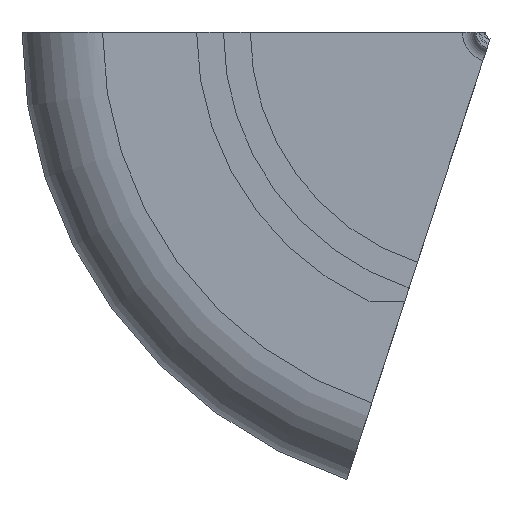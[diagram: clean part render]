
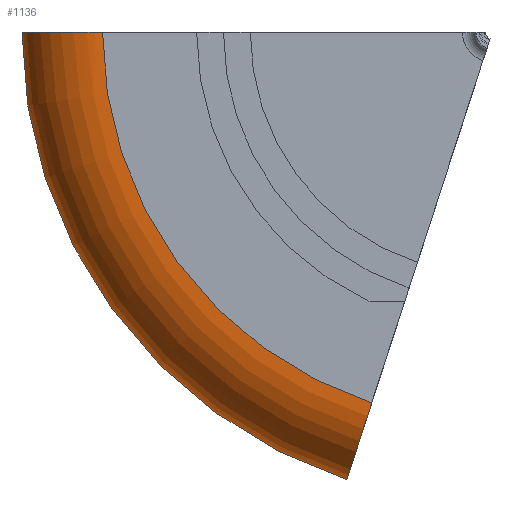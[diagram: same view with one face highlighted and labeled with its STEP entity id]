
A CAD part, left-side view. The second image highlights one B-rep face of the part: STEP entity #1136.
In plain terms, the highlighted toroidal (fillet/blend) face has major radius 145 mm and minor radius 30 mm.
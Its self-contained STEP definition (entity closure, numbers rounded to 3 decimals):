
#13 = EDGE_CURVE ( 'NONE', #2634, #184, #2380, .T. ) ;
#47 = DIRECTION ( 'NONE',  ( 0., 0.951, 0.309 ) ) ;
#69 = CIRCLE ( 'NONE', #996, 30. ) ;
#75 = CARTESIAN_POINT ( 'NONE',  ( -182.589, 0., -164.838 ) ) ;
#113 = CARTESIAN_POINT ( 'NONE',  ( -177.458, 0., -169.402 ) ) ;
#125 = EDGE_CURVE ( 'NONE', #1490, #1398, #1472, .T. ) ;
#171 = DIRECTION ( 'NONE',  ( 1., 0., 0. ) ) ;
#184 = VERTEX_POINT ( 'NONE', #1374 ) ;
#295 = CARTESIAN_POINT ( 'NONE',  ( -169.636, 0., -173.427 ) ) ;
#343 = CARTESIAN_POINT ( 'NONE',  ( -187.75, 0., -156.523 ) ) ;
#452 = FACE_OUTER_BOUND ( 'NONE', #1320, .T. ) ;
#504 = CARTESIAN_POINT ( 'NONE',  ( -160., -137.903, -44.807 ) ) ;
#518 = DIRECTION ( 'NONE',  ( 0., 0., -1. ) ) ;
#537 = CARTESIAN_POINT ( 'NONE',  ( -160., 0., -175. ) ) ;
#549 = B_SPLINE_CURVE_WITH_KNOTS ( 'NONE', 3,
 ( #537, #1845, #2268, #2492, #2238, #295, #2058, #953, #1155, #1403, #113, #2031, #2671, #1168, #1372, #75, #2038, #754, #976, #2470, #2529, #1028, #343, #785, #805, #1674, #1445, #2278, #2286, #1667, #2068 ),
 .UNSPECIFIED., .F., .F.,
 ( 4, 2, 2, 2, 2, 2, 2, 2, 2, 2, 2, 1, 2, 2, 2, 4 ),
 ( 0., 0.006, 0.009, 0.012, 0.018, 0.019, 0.021, 0.023, 0.029, 0.031, 0.032, 0.035, 0.038, 0.04, 0.041, 0.047 ),
 .UNSPECIFIED. ) ;
#645 = CARTESIAN_POINT ( 'NONE',  ( -160., 0., 0. ) ) ;
#754 = CARTESIAN_POINT ( 'NONE',  ( -185.202, 0., -161.282 ) ) ;
#785 = CARTESIAN_POINT ( 'NONE',  ( -188.411, 0., -154.684 ) ) ;
#805 = CARTESIAN_POINT ( 'NONE',  ( -188.84, 0., -153.276 ) ) ;
#921 = DIRECTION ( 'NONE',  ( 0., -0.309, 0.951 ) ) ;
#953 = CARTESIAN_POINT ( 'NONE',  ( -173.296, 0., -171.964 ) ) ;
#976 = CARTESIAN_POINT ( 'NONE',  ( -185.468, 0., -160.863 ) ) ;
#980 = CARTESIAN_POINT ( 'NONE',  ( -190., 0., 0. ) ) ;
#996 = AXIS2_PLACEMENT_3D ( 'NONE', #504, #921, #47 ) ;
#1028 = CARTESIAN_POINT ( 'NONE',  ( -186.913, 0., -158.29 ) ) ;
#1136 = ADVANCED_FACE ( 'NONE', ( #452 ), #2073, .T. ) ;
#1155 = CARTESIAN_POINT ( 'NONE',  ( -175.018, 0., -171.044 ) ) ;
#1168 = CARTESIAN_POINT ( 'NONE',  ( -179.786, 0., -167.572 ) ) ;
#1179 = DIRECTION ( 'NONE',  ( -1., 0., 0. ) ) ;
#1210 = CARTESIAN_POINT ( 'NONE',  ( -190., -137.903, -44.807 ) ) ;
#1255 = ORIENTED_EDGE ( 'NONE', *, *, #13, .F. ) ;
#1279 = CARTESIAN_POINT ( 'NONE',  ( -160., -166.435, -54.078 ) ) ;
#1320 = EDGE_LOOP ( 'NONE', ( #2393, #2418, #1988, #1255 ) ) ;
#1348 = EDGE_CURVE ( 'NONE', #184, #1490, #549, .T. ) ;
#1372 = CARTESIAN_POINT ( 'NONE',  ( -180.514, 0., -166.912 ) ) ;
#1374 = CARTESIAN_POINT ( 'NONE',  ( -160., 0., -175. ) ) ;
#1398 = VERTEX_POINT ( 'NONE', #1210 ) ;
#1403 = CARTESIAN_POINT ( 'NONE',  ( -177.056, 0., -169.685 ) ) ;
#1445 = CARTESIAN_POINT ( 'NONE',  ( -189.213, 0., -151.846 ) ) ;
#1472 = CIRCLE ( 'NONE', #2093, 145. ) ;
#1490 = VERTEX_POINT ( 'NONE', #2574 ) ;
#1667 = CARTESIAN_POINT ( 'NONE',  ( -190., 0., -146.981 ) ) ;
#1674 = CARTESIAN_POINT ( 'NONE',  ( -188.972, 0., -152.803 ) ) ;
#1800 = AXIS2_PLACEMENT_3D ( 'NONE', #2112, #171, #2322 ) ;
#1845 = CARTESIAN_POINT ( 'NONE',  ( -161.981, 0., -175. ) ) ;
#1953 = AXIS2_PLACEMENT_3D ( 'NONE', #645, #2375, #2122 ) ;
#1988 = ORIENTED_EDGE ( 'NONE', *, *, #1348, .F. ) ;
#2031 = CARTESIAN_POINT ( 'NONE',  ( -178.249, 0., -168.816 ) ) ;
#2038 = CARTESIAN_POINT ( 'NONE',  ( -183.831, 0., -163.329 ) ) ;
#2058 = CARTESIAN_POINT ( 'NONE',  ( -170.572, 0., -173.092 ) ) ;
#2068 = CARTESIAN_POINT ( 'NONE',  ( -190., 0., -145. ) ) ;
#2073 = TOROIDAL_SURFACE ( 'NONE', #1800, 145., 30. ) ;
#2093 = AXIS2_PLACEMENT_3D ( 'NONE', #980, #1179, #518 ) ;
#2112 = CARTESIAN_POINT ( 'NONE',  ( -160., 0., 0. ) ) ;
#2122 = DIRECTION ( 'NONE',  ( 0., 0., -1. ) ) ;
#2238 = CARTESIAN_POINT ( 'NONE',  ( -167.753, 0., -173.998 ) ) ;
#2268 = CARTESIAN_POINT ( 'NONE',  ( -163.929, 0., -174.806 ) ) ;
#2278 = CARTESIAN_POINT ( 'NONE',  ( -189.322, 0., -151.362 ) ) ;
#2286 = CARTESIAN_POINT ( 'NONE',  ( -189.806, 0., -148.94 ) ) ;
#2322 = DIRECTION ( 'NONE',  ( 0., 0., -1. ) ) ;
#2375 = DIRECTION ( 'NONE',  ( 1., 0., 0. ) ) ;
#2380 = CIRCLE ( 'NONE', #1953, 175. ) ;
#2393 = ORIENTED_EDGE ( 'NONE', *, *, #2713, .F. ) ;
#2418 = ORIENTED_EDGE ( 'NONE', *, *, #125, .F. ) ;
#2470 = CARTESIAN_POINT ( 'NONE',  ( -185.976, 0., -160.016 ) ) ;
#2492 = CARTESIAN_POINT ( 'NONE',  ( -166.803, 0., -174.235 ) ) ;
#2529 = CARTESIAN_POINT ( 'NONE',  ( -186.219, 0., -159.588 ) ) ;
#2574 = CARTESIAN_POINT ( 'NONE',  ( -190., 0., -145. ) ) ;
#2634 = VERTEX_POINT ( 'NONE', #1279 ) ;
#2671 = CARTESIAN_POINT ( 'NONE',  ( -178.64, 0., -168.512 ) ) ;
#2713 = EDGE_CURVE ( 'NONE', #1398, #2634, #69, .T. ) ;
